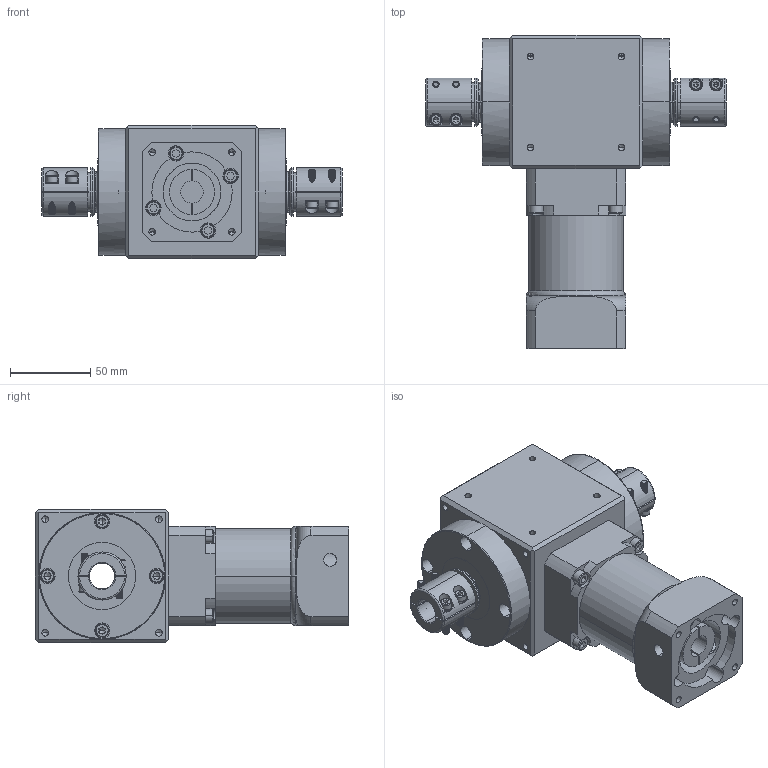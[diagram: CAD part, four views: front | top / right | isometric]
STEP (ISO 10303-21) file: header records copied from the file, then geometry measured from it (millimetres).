
FILE_DESCRIPTION (( 'STEP AP214' ), '1' );
FILE_NAME ('RAH060-L2-XX-D-14-50-70-M5_2019.STEP', '2019-03-22T10:36:05', ( 'Y' ), ( 'NCU' ), 'SwSTEP 2.0', 'SolidWorks 2016', '' );
FILE_SCHEMA (( 'AUTOMOTIVE_DESIGN' ));
Length unit declared in the file: millimetre
Products named in the file (1): RAH060-L2-XX-D-14-50-70-M5_2019
Bounding box: 187 x 195 x 83 mm (x, y, z)
Volume: 1069895.7 mm3; surface area: 130277.3 mm2
Topology: 2 solids, 10 shells, 1326 faces, 3580 edges, 2183 vertices
Faces by surface type: cylinder 573, plane 489, cone 130, bspline 92, torus 42
Entity records: 94806 total; most frequent: CARTESIAN_POINT 63106, ORIENTED_EDGE 7016, DIRECTION 5975, EDGE_CURVE 3508, AXIS2_PLACEMENT_3D 2248, VERTEX_POINT 2183, LINE 1479, VECTOR 1479
